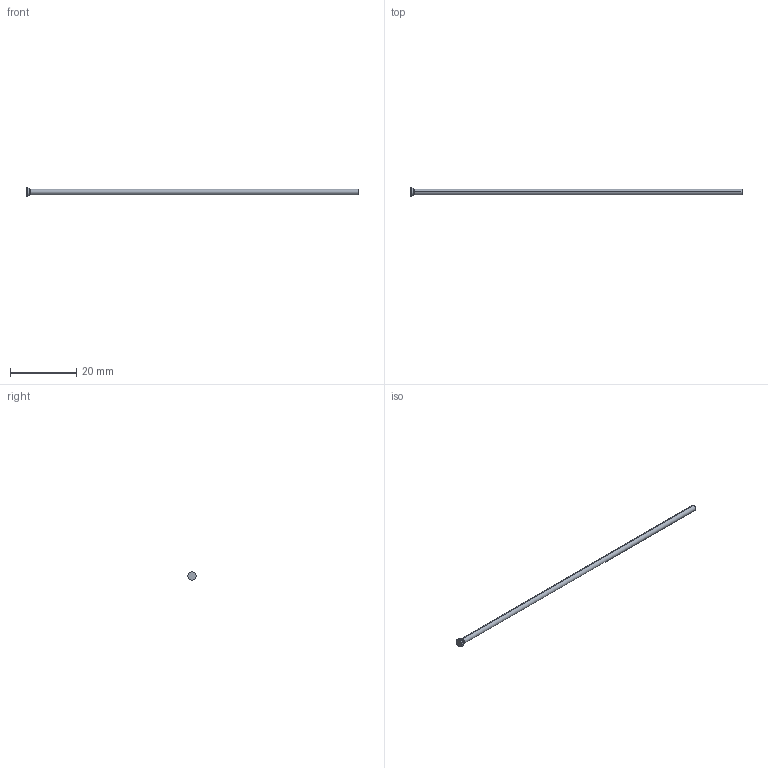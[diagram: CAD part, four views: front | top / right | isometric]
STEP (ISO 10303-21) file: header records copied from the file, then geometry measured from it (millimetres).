
FILE_DESCRIPTION (( 'STEP AP214' ), '1' );
FILE_NAME ('D-1,7x100.STEP', '2020-06-08T09:39:50', ( 'August' ), ( '' ), 'SwSTEP 2.0', 'SolidWorks 2018', '' );
FILE_SCHEMA (( 'AUTOMOTIVE_DESIGN' ));
Length unit declared in the file: millimetre
Products named in the file (1): D-1,7x100
Bounding box: 100 x 2.5 x 2.5 mm (x, y, z)
Volume: 229.2 mm3; surface area: 544 mm2
Topology: 1 solids, 1 shells, 10 faces, 18 edges, 10 vertices
Faces by surface type: cylinder 4, torus 2, cone 2, plane 2
Entity records: 280 total; most frequent: DIRECTION 52, CARTESIAN_POINT 39, ORIENTED_EDGE 36, AXIS2_PLACEMENT_3D 23, EDGE_CURVE 18, CIRCLE 12, EDGE_LOOP 10, ADVANCED_FACE 10
